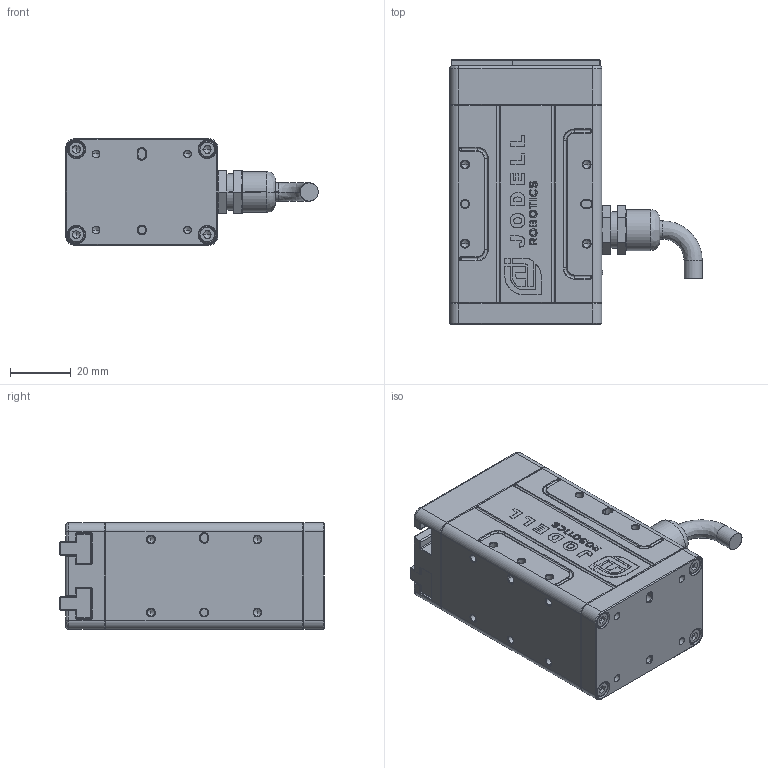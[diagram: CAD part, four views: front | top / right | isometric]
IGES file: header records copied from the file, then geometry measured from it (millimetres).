
Start section: SolidWorks IGES file using analytic representation for surfaces
Bounding box: 83 x 87 x 35 mm (x, y, z)
Surface area: 34761.4 mm2 (no closed solid volume)
Topology: 0 solids, 0 shells, 1205 faces, 10288 edges, 10210 vertices
Faces by surface type: bspline 775, revolution 430
